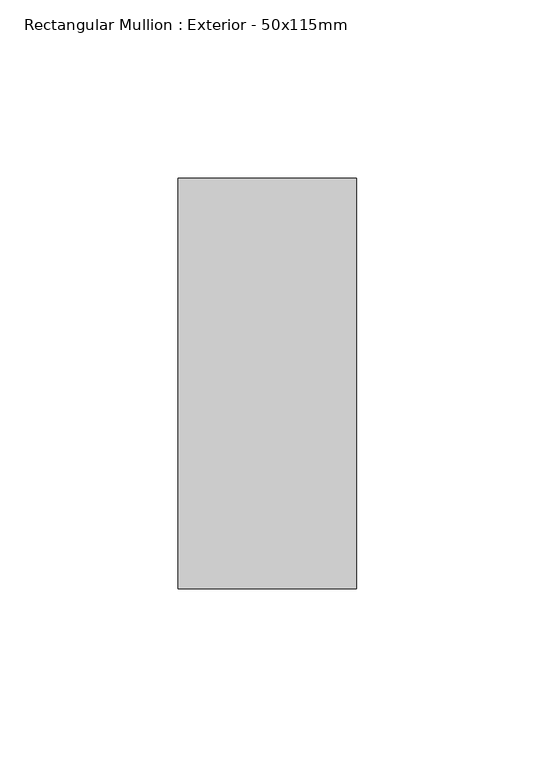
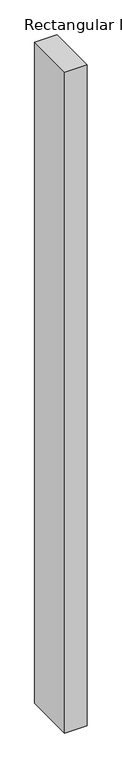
"""IFC4 building model written with IfcOpenShell, lengths in millimetres: member geometry, Rectangular Mullion : Exterior - 50x115mm."""

from ifc_helpers import new_model, si_unit, frame, origin, place, context, project, spatial, polyline, outline, extrude, source, transform, mapped, element, save


def rectangular_mullion_exterior_50x115mm_8a649f50(model_context):
    return source(origin(), model_context, "Body", "SweptSolid", [
        extrude(outline(polyline([(25.0, 115.0), (25.0, 0.0), (-25.0, 0.0), (-25.0, 115.0), (25.0, 115.0)])), frame((0.0, 0.0, -1550.0), z_axis=(0.0, 0.0, 1.0), x_axis=(1.0, 0.0, 0.0)), (0.0, 0.0, 1.0), 1550.0),
    ])


if __name__ == "__main__":
    model = new_model("IFC4")
    model_context = context("Model", 3, world=origin())
    ifc_project = project(units=[si_unit("LENGTHUNIT", "METRE", prefix="MILLI")], contexts=[model_context])
    site = spatial("IfcSite", under=ifc_project)
    building = spatial("IfcBuilding", under=site)
    placement = place(None, origin())
    rectangular_mullion_exterior_50x115mm_shape = rectangular_mullion_exterior_50x115mm_8a649f50(model_context)
    element("IfcMember", 1, ObjectType="Rectangular Mullion : Exterior - 50x115mm", at=placement, inside=building, context=model_context, shape_type="MappedRepresentation", body=[
        mapped(rectangular_mullion_exterior_50x115mm_shape, transform((0.0, 0.0, 0.0), x_axis=(1.0, 0.0, 0.0), y_axis=(0.0, 1.0, 0.0), z_axis=(0.0, 0.0, 1.0))),
    ])
    save(model, "model.ifc")
